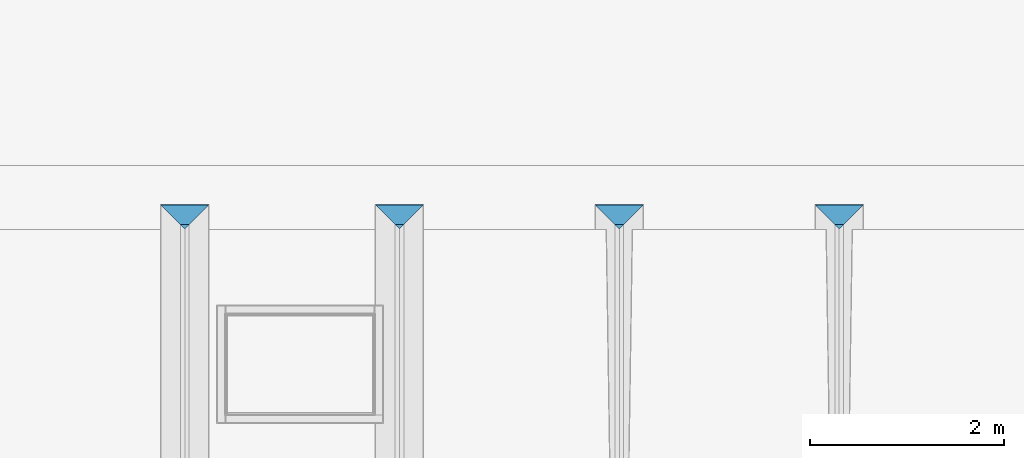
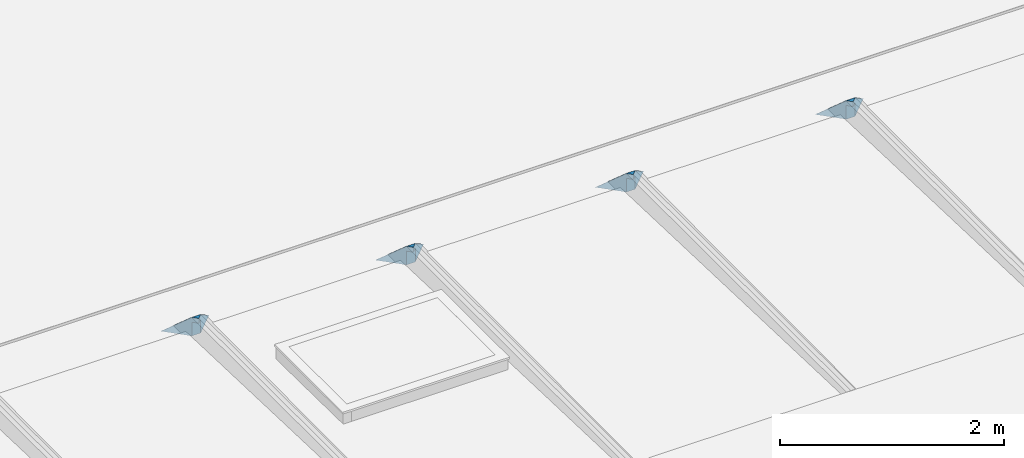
# One storey, part 13 of 16: 8 building element parts, 4 elements without a shape of their own.
"""IFC2X3 building model written with IfcOpenShell, lengths in millimetres."""

from ifc_helpers import new_model, entity, si_unit, converted_unit, derived_unit, money_unit, direction, frame, origin_with_axes, place, context, subcontext, project, spatial, faceted_brep, material, type_object, element, aggregate, save


model = new_model("IFC2X3")

# Units and contexts
model_context = context("Model", 3, precision=0.01, world=origin_with_axes(), true_north=direction((0.0, 1.0)))
body_context = subcontext(model_context, "Body", "Model", "MODEL_VIEW")
ifc_project = project(units=[si_unit("LENGTHUNIT", "METRE", prefix="MILLI"), si_unit("AREAUNIT", "SQUARE_METRE"), si_unit("VOLUMEUNIT", "CUBIC_METRE"), converted_unit("PLANEANGLEUNIT", "DEGREE", entity("IfcPlaneAngleMeasure", 0.0174532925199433), si_unit("PLANEANGLEUNIT", "RADIAN"), dimensions=[0, 0, 0, 0, 0, 0, 0]), money_unit("EUR"), converted_unit("TIMEUNIT", "Year", entity("IfcTimeMeasure", 31556926.0), si_unit("TIMEUNIT", "SECOND"), dimensions=[0, 0, 1, 0, 0, 0, 0]), si_unit("MASSUNIT", "GRAM", prefix="KILO"), si_unit("THERMODYNAMICTEMPERATUREUNIT", "DEGREE_CELSIUS"), si_unit("LUMINOUSINTENSITYUNIT", "LUMEN"), si_unit("ENERGYUNIT", "JOULE", prefix="MEGA"), derived_unit("THERMALCONDUCTANCEUNIT", [(si_unit("POWERUNIT", "WATT"), 1), (si_unit("LENGTHUNIT", "METRE"), -1), (si_unit("THERMODYNAMICTEMPERATUREUNIT", "KELVIN"), -1)]), derived_unit("SPECIFICHEATCAPACITYUNIT", [(si_unit("ENERGYUNIT", "JOULE"), 1), (si_unit("MASSUNIT", "GRAM", prefix="KILO"), -1), (si_unit("THERMODYNAMICTEMPERATUREUNIT", "KELVIN"), -1)]), derived_unit("MASSDENSITYUNIT", [(si_unit("MASSUNIT", "GRAM", prefix="KILO"), 1), (si_unit("VOLUMEUNIT", "CUBIC_METRE"), -1)])], contexts=[model_context])

# Site, building, storey
site_placement = place(None, origin_with_axes())
site = spatial("IfcSite", under=ifc_project, at=site_placement, Name="Site", CompositionType="ELEMENT")
building_placement = place(site_placement, origin_with_axes())
building = spatial("IfcBuilding", under=site, at=building_placement, Name="Naam gebouw", CompositionType="ELEMENT")
storey_placement = place(building_placement, frame((0.0, 0.0, 7820.0), z_axis=(0.0, 0.0, 1.0), x_axis=(1.0, 0.0, 0.0)))
storey = spatial("IfcBuildingStorey", under=building, at=storey_placement, Name="2e dakoverzicht", CompositionType="ELEMENT", Elevation=7820.0)

# Beam, building element parts
beam_type = type_object("IfcBeamType", Name="47 IPE inpakken 250 x 203", PredefinedType="BEAM")
beam_1_placement = place(storey_placement, frame((15532.99956842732, 10810.00005527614, 269.9999999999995), z_axis=(0.0, 0.0, 1.0), x_axis=(0.0, 1.0, 0.0)))
beam_1 = element("IfcBeam", 1, at=beam_1_placement, inside=storey, type_object=beam_type, Name="_Regenwaterafvoer-x", ObjectType="BEAM")
ifc_material_1 = material(Name="Isolatie - Kunststof hard")
building_element_part_1_placement = place(beam_1_placement, origin_with_axes())
building_element_part_1 = element("IfcBuildingElementPart", 2, at=building_element_part_1_placement, material=ifc_material_1, Name="Isolatie - Kunststof hard", context=body_context, shape_type="Brep", body=[
    faceted_brep([(-45.50000000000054, 45.49999999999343, 50.00000000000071), (0.0, 90.99999999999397, 50.00000000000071), (199.999999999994, 290.9999999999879, -150.0000000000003), (0.0, 90.99999999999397, -150.0000000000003), (0.0, 90.99999999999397, 0.0), (-45.50000000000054, 45.49999999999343, 0.0), (0.0, 0.0, 50.00000000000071), (199.999999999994, -199.9999999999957, -150.0000000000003), (0.0, 0.0, -150.0000000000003), (0.0, 0.0, 0.0)], [[[0, 1, 2, 3, 4, 5]], [[1, 0, 6]], [[2, 1, 6, 7]], [[3, 2, 7, 8]], [[4, 3, 8, 9]], [[5, 4, 9]], [[0, 5, 9, 8, 7, 6]]]),
])
ifc_material_2 = material(Name="47 waterdichte laag - bitumen")
building_element_part_2_placement = place(beam_1_placement, origin_with_axes())
building_element_part_2 = element("IfcBuildingElementPart", 3, at=building_element_part_2_placement, material=ifc_material_2, Name="47 waterdichte laag - bitumen", context=body_context, shape_type="Brep", body=[
    faceted_brep([(1.242640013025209, 92.24264001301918, 52.99999990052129), (-45.50000000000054, 45.49999999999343, 52.99999990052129), (1.242640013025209, -1.242640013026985, 52.99999990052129), (199.9999981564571, 290.9999981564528, -150.0000000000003), (2.34354757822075e-07, 91.00000023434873, 50.00000164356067), (-45.50000000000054, 45.49999999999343, 50.00000164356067), (204.2426399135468, 295.2426399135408, -150.0000000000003), (2.34354757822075e-07, -2.343565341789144e-07, 50.00000164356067), (199.9999981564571, -199.9999981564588, -150.0000000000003), (204.2426399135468, -204.2426399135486, -150.0000000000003)], [[[0, 1, 2]], [[3, 4, 5, 1, 0, 6]], [[1, 5, 7, 8, 9, 2]], [[6, 0, 2, 9]], [[4, 3, 8, 7]], [[5, 4, 7]], [[3, 6, 9, 8]]]),
])
aggregate(beam_1, [building_element_part_1, building_element_part_2])

beam_2_placement = place(storey_placement, frame((22278.83250152, 10810.00005527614, 269.9999999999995), z_axis=(0.0, 0.0, 1.0), x_axis=(0.0, 1.0, 0.0)))
beam_2 = element("IfcBeam", 4, at=beam_2_placement, inside=storey, type_object=beam_type, Name="_Regenwaterafvoer-x", ObjectType="BEAM")
building_element_part_3_placement = place(beam_2_placement, origin_with_axes())
building_element_part_3 = element("IfcBuildingElementPart", 5, at=building_element_part_3_placement, material=ifc_material_1, Name="Isolatie - Kunststof hard", context=body_context, shape_type="Brep", body=[
    faceted_brep([(-45.50000000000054, 45.50000000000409, 50.00000000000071), (0.0, 91.00000000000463, 50.00000000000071), (199.999999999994, 291.0000000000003, -150.0000000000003), (0.0, 91.00000000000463, -150.0000000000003), (0.0, 91.00000000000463, 0.0), (-45.50000000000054, 45.50000000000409, 0.0), (0.0, 0.0, 50.00000000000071), (199.999999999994, -199.9999999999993, -150.0000000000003), (0.0, 0.0, -150.0000000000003), (0.0, 0.0, 0.0)], [[[0, 1, 2, 3, 4, 5]], [[1, 0, 6]], [[2, 1, 6, 7]], [[3, 2, 7, 8]], [[4, 3, 8, 9]], [[5, 4, 9]], [[0, 5, 9, 8, 7, 6]]]),
])
building_element_part_4_placement = place(beam_2_placement, origin_with_axes())
building_element_part_4 = element("IfcBuildingElementPart", 6, at=building_element_part_4_placement, material=ifc_material_2, Name="47 waterdichte laag - bitumen", context=body_context, shape_type="Brep", body=[
    faceted_brep([(1.242640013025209, 92.24264001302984, 52.99999990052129), (-45.50000000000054, 45.50000000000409, 52.99999990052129), (1.242640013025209, -1.242640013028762, 52.99999990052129), (199.9999981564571, 290.9999981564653, -150.0000000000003), (2.34354757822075e-07, 91.00000023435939, 50.00000164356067), (-45.50000000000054, 45.50000000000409, 50.00000164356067), (204.2426399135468, 295.2426399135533, -150.0000000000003), (2.34354757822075e-07, -2.343583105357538e-07, 50.00000164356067), (199.9999981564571, -199.9999981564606, -150.0000000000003), (204.2426399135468, -204.2426399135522, -150.0000000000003)], [[[0, 1, 2]], [[3, 4, 5, 1, 0, 6]], [[1, 5, 7, 8, 9, 2]], [[6, 0, 2, 9]], [[4, 3, 8, 7]], [[5, 4, 7]], [[3, 6, 9, 8]]]),
])
aggregate(beam_2, [building_element_part_3, building_element_part_4])

beam_3_placement = place(storey_placement, frame((20012.1659630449, 10810.00005527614, 269.9999999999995), z_axis=(0.0, 0.0, 1.0), x_axis=(0.0, 1.0, 0.0)))
beam_3 = element("IfcBeam", 7, at=beam_3_placement, inside=storey, type_object=beam_type, Name="_Regenwaterafvoer-x", ObjectType="BEAM")
building_element_part_5_placement = place(beam_3_placement, origin_with_axes())
building_element_part_5 = element("IfcBuildingElementPart", 8, at=building_element_part_5_placement, material=ifc_material_2, Name="47 waterdichte laag - bitumen", context=body_context, shape_type="Brep", body=[
    faceted_brep([(199.9999981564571, 290.9999981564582, -150.0000000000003), (2.34354757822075e-07, 91.00000023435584, 50.00000164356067), (-45.50000000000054, 45.49999999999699, 50.00000164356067), (-45.50000000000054, 45.49999999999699, 52.99999990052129), (1.242640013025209, 92.24264001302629, 52.99999990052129), (204.2426399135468, 295.2426399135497, -150.0000000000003), (199.9999981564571, -199.9999981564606, -150.0000000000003), (2.34354757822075e-07, -2.34354757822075e-07, 50.00000164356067), (204.2426399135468, -204.2426399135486, -150.0000000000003), (1.242640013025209, -1.242640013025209, 52.99999990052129)], [[[0, 1, 2, 3, 4, 5]], [[1, 0, 6, 7]], [[2, 1, 7]], [[3, 2, 7, 6, 8, 9]], [[4, 3, 9]], [[5, 4, 9, 8]], [[0, 5, 8, 6]]]),
])
building_element_part_6_placement = place(beam_3_placement, origin_with_axes())
building_element_part_6 = element("IfcBuildingElementPart", 9, at=building_element_part_6_placement, material=ifc_material_1, Name="Isolatie - Kunststof hard", context=body_context, shape_type="Brep", body=[
    faceted_brep([(-45.50000000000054, 45.49999999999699, 50.00000000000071), (0.0, 91.00000000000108, 50.00000000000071), (199.999999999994, 290.9999999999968, -150.0000000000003), (0.0, 91.00000000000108, -150.0000000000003), (0.0, 91.00000000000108, 0.0), (-45.50000000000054, 45.49999999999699, 0.0), (0.0, 0.0, 50.00000000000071), (199.999999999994, -199.9999999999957, -150.0000000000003), (0.0, 0.0, -150.0000000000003), (0.0, 0.0, 0.0)], [[[0, 1, 2, 3, 4, 5]], [[1, 0, 6]], [[2, 1, 6, 7]], [[3, 2, 7, 8]], [[4, 3, 8, 9]], [[5, 4, 9]], [[0, 5, 9, 8, 7, 6]]]),
])
aggregate(beam_3, [building_element_part_5, building_element_part_6])

beam_4_placement = place(storey_placement, frame((17745.4994245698, 10810.00005527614, 269.9999999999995), z_axis=(0.0, 0.0, 1.0), x_axis=(0.0, 1.0, 0.0)))
beam_4 = element("IfcBeam", 10, at=beam_4_placement, inside=storey, type_object=beam_type, Name="_Regenwaterafvoer-x", ObjectType="BEAM")
building_element_part_7_placement = place(beam_4_placement, origin_with_axes())
building_element_part_7 = element("IfcBuildingElementPart", 11, at=building_element_part_7_placement, material=ifc_material_2, Name="47 waterdichte laag - bitumen", context=body_context, shape_type="Brep", body=[
    faceted_brep([(1.242640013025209, 92.24264001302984, 52.99999990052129), (-45.50000000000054, 45.50000000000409, 52.99999990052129), (1.242640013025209, -1.242640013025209, 52.99999990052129), (199.9999981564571, 290.9999981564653, -150.0000000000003), (2.34354757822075e-07, 91.00000023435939, 50.00000164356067), (-45.50000000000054, 45.50000000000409, 50.00000164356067), (204.2426399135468, 295.2426399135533, -150.0000000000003), (2.34354757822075e-07, -2.34354757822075e-07, 50.00000164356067), (199.9999981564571, -199.9999981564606, -150.0000000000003), (204.2426399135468, -204.2426399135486, -150.0000000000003)], [[[0, 1, 2]], [[3, 4, 5, 1, 0, 6]], [[1, 5, 7, 8, 9, 2]], [[6, 0, 2, 9]], [[4, 3, 8, 7]], [[5, 4, 7]], [[3, 6, 9, 8]]]),
])
building_element_part_8_placement = place(beam_4_placement, origin_with_axes())
building_element_part_8 = element("IfcBuildingElementPart", 12, at=building_element_part_8_placement, material=ifc_material_1, Name="Isolatie - Kunststof hard", context=body_context, shape_type="Brep", body=[
    faceted_brep([(-45.50000000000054, 45.50000000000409, 50.00000000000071), (0.0, 91.00000000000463, 50.00000000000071), (199.999999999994, 291.0000000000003, -150.0000000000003), (0.0, 91.00000000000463, -150.0000000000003), (0.0, 91.00000000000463, 0.0), (-45.50000000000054, 45.50000000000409, 0.0), (0.0, 0.0, 50.00000000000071), (199.999999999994, -199.9999999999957, -150.0000000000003), (0.0, 0.0, -150.0000000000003), (0.0, 0.0, 0.0)], [[[0, 1, 2, 3, 4, 5]], [[1, 0, 6]], [[2, 1, 6, 7]], [[3, 2, 7, 8]], [[4, 3, 8, 9]], [[5, 4, 9]], [[0, 5, 9, 8, 7, 6]]]),
])
aggregate(beam_4, [building_element_part_7, building_element_part_8])

save(model, "model.ifc")
